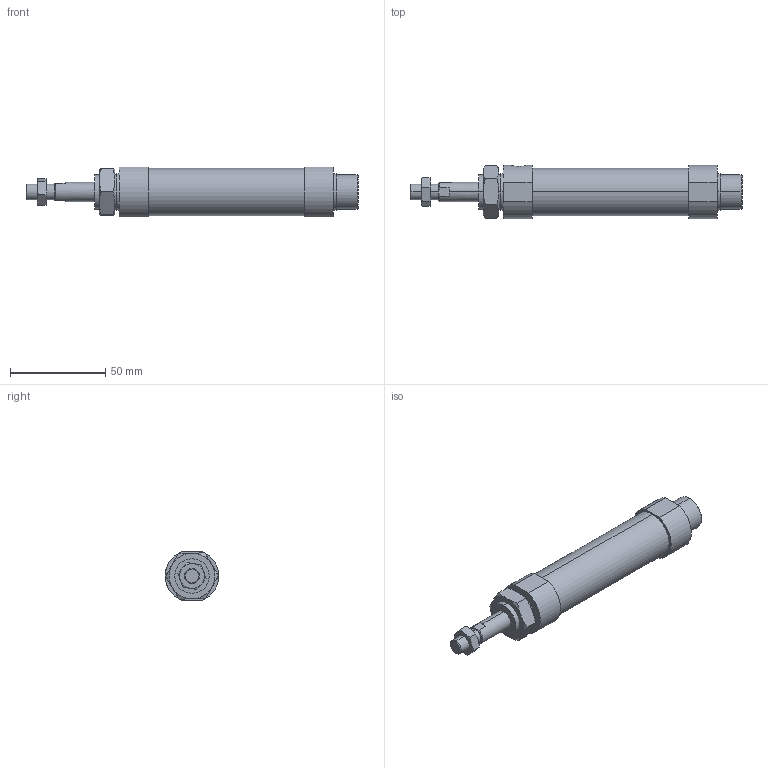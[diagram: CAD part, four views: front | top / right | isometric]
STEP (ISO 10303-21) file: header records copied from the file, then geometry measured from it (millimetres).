
FILE_DESCRIPTION (( 'STEP AP203' ), '1' );
FILE_NAME ('J#0-20-15-N.STEP', '2016-03-08T06:15:40', ( '' ), ( '' ), 'SwSTEP 2.0', 'SolidWorks 2014', '' );
FILE_SCHEMA (( 'CONFIG_CONTROL_DESIGN' ));
Length unit declared in the file: millimetre
Products named in the file (4): J#0-20-15-N; J#0-20-15
Assembly tree (3 placements, depth 2):
  J#0-20-15-N
    J#0-20-15
    (unnamed)
    (unnamed)
Bounding box: 174 x 28 x 26 mm (x, y, z)
Volume: 69421.9 mm3; surface area: 15480.6 mm2
Topology: 3 solids, 3 shells, 89 faces, 192 edges, 118 vertices
Faces by surface type: plane 35, cylinder 24, torus 24, cone 6
Entity records: 3110 total; most frequent: CARTESIAN_POINT 795, DIRECTION 408, ORIENTED_EDGE 384, EDGE_CURVE 192, AXIS2_PLACEMENT_3D 175, VERTEX_POINT 118, EDGE_LOOP 102, ADVANCED_FACE 89
